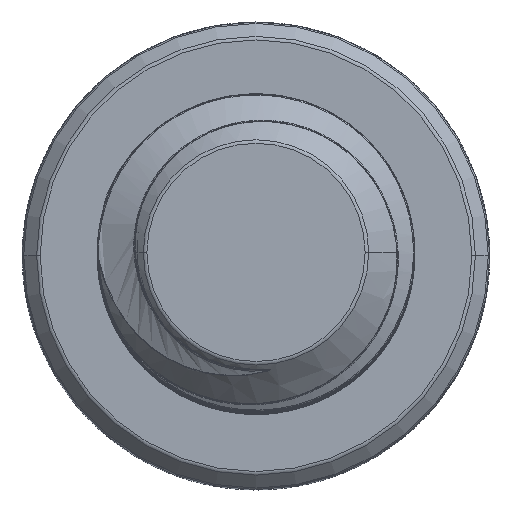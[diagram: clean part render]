
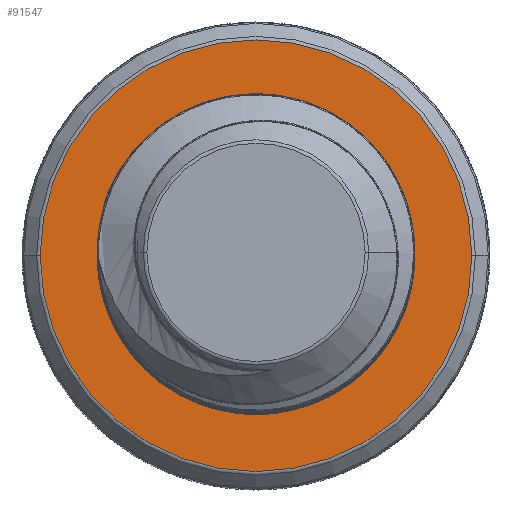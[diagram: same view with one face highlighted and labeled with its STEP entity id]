
A CAD part, top view. The second image highlights one B-rep face of the part: STEP entity #91547.
In plain terms, the highlighted planar face has unit normal (0, 0, 1).
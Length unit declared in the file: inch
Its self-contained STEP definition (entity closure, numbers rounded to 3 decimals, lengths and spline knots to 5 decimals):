
#1328 = CARTESIAN_POINT ( 'NONE',  ( 0.10528, 0.00814, -1.5 ) ) ;
#1633 = CARTESIAN_POINT ( 'NONE',  ( -0.16987, 0., -1.5 ) ) ;
#4963 = CARTESIAN_POINT ( 'NONE',  ( -0.01413, 0.12618, -1.5 ) ) ;
#5326 = VERTEX_POINT ( 'NONE', #160322 ) ;
#9999 = CARTESIAN_POINT ( 'NONE',  ( 0., 0., -1.5 ) ) ;
#10067 = CARTESIAN_POINT ( 'NONE',  ( 0.02707, -0.0929, -1.5 ) ) ;
#11729 = CARTESIAN_POINT ( 'NONE',  ( -0.11545, -0.02751, -1.5 ) ) ;
#22119 = FACE_OUTER_BOUND ( 'NONE', #99215, .T. ) ;
#23245 = CARTESIAN_POINT ( 'NONE',  ( -0.1112, -0.03765, -1.5 ) ) ;
#23430 = CARTESIAN_POINT ( 'NONE',  ( 0.16987, 0., -1.5 ) ) ;
#24350 = CARTESIAN_POINT ( 'NONE',  ( 0.01684, -0.09684, -1.5 ) ) ;
#26610 = CARTESIAN_POINT ( 'NONE',  ( 0.0877, -0.04382, -1.5 ) ) ;
#27684 = CARTESIAN_POINT ( 'NONE',  ( 0.08217, 0.08039, -1.5 ) ) ;
#34443 = ORIENTED_EDGE ( 'NONE', *, *, #64050, .T. ) ;
#34787 = CARTESIAN_POINT ( 'NONE',  ( 0.03651, -0.08716, -1.5 ) ) ;
#35326 = CARTESIAN_POINT ( 'NONE',  ( -0.11968, -0.01169, -1.5 ) ) ;
#36116 = CIRCLE ( 'NONE', #40603, 0.16987 ) ;
#36426 = CARTESIAN_POINT ( 'NONE',  ( -0.12066, 0.03729, -1.5 ) ) ;
#37798 = CARTESIAN_POINT ( 'NONE',  ( 0., 0., -1.5 ) ) ;
#38702 = CARTESIAN_POINT ( 'NONE',  ( 0.08109, -0.05269, -1.5 ) ) ;
#39265 = CARTESIAN_POINT ( 'NONE',  ( 0.09809, -0.02421, -1.5 ) ) ;
#39929 = ORIENTED_EDGE ( 'NONE', *, *, #64104, .T. ) ;
#40318 = CARTESIAN_POINT ( 'NONE',  ( -0.00301, 0.12627, -1.5 ) ) ;
#40603 = AXIS2_PLACEMENT_3D ( 'NONE', #136357, #62499, #150668 ) ;
#40852 = CARTESIAN_POINT ( 'NONE',  ( -0.01413, 0.12618, -1.5 ) ) ;
#48497 = CARTESIAN_POINT ( 'NONE',  ( -0.1176, 0.04787, -1.5 ) ) ;
#49055 = CARTESIAN_POINT ( 'NONE',  ( -0.00482, -0.10051, -1.5 ) ) ;
#49789 = DIRECTION ( 'NONE',  ( 0., 0., -1. ) ) ;
#50418 = VERTEX_POINT ( 'NONE', #1633 ) ;
#50803 = CARTESIAN_POINT ( 'NONE',  ( 0.0394, 0.11463, -1.5 ) ) ;
#52683 = VERTEX_POINT ( 'NONE', #23430 ) ;
#60368 = DIRECTION ( 'NONE',  ( 0., 0., -1. ) ) ;
#60783 = EDGE_LOOP ( 'NONE', ( #156963, #112574, #87210, #39929 ) ) ;
#61724 = CARTESIAN_POINT ( 'NONE',  ( -0.12211, 0.00458, -1.5 ) ) ;
#62499 = DIRECTION ( 'NONE',  ( 0., 0., 1. ) ) ;
#63447 = CARTESIAN_POINT ( 'NONE',  ( 0., 0., -1.5 ) ) ;
#64006 = CARTESIAN_POINT ( 'NONE',  ( 0.02924, 0.11893, -1.5 ) ) ;
#64050 = EDGE_CURVE ( 'NONE', #52683, #50418, #103689, .T. ) ;
#64104 = EDGE_CURVE ( 'NONE', #163102, #92521, #145972, .T. ) ;
#72226 = CARTESIAN_POINT ( 'NONE',  ( -0.04812, -0.09541, -1.5 ) ) ;
#73308 = CARTESIAN_POINT ( 'NONE',  ( -0.12074, -0.00626, -1.5 ) ) ;
#73876 = CARTESIAN_POINT ( 'NONE',  ( -0.02126, -0.10054, -1.5 ) ) ;
#74234 = CIRCLE ( 'NONE', #111231, 0.09449 ) ;
#74357 = PLANE ( 'NONE',  #104483 ) ;
#76167 = CARTESIAN_POINT ( 'NONE',  ( 0.04438, 0.11209, -1.5 ) ) ;
#77349 = DIRECTION ( 'NONE',  ( -1., 0., 0. ) ) ;
#77778 = CARTESIAN_POINT ( 'NONE',  ( 0.05852, 0.10358, -1.5 ) ) ;
#80960 = EDGE_CURVE ( 'NONE', #92521, #135970, #74234, .T. ) ;
#86874 = AXIS2_PLACEMENT_3D ( 'NONE', #63447, #115245, #126847 ) ;
#87016 = DIRECTION ( 'NONE',  ( 0., 0., -1. ) ) ;
#87210 = ORIENTED_EDGE ( 'NONE', *, *, #100149, .T. ) ;
#88792 = CARTESIAN_POINT ( 'NONE',  ( 0.10191, 0.0411, -1.5 ) ) ;
#89344 = CARTESIAN_POINT ( 'NONE',  ( 0.10534, 0.01916, -1.5 ) ) ;
#91053 = FACE_BOUND ( 'NONE', #60783, .T. ) ;
#91547 = ADVANCED_FACE ( 'NONE', ( #22119, #91053 ), #74357, .F. ) ;
#92521 = VERTEX_POINT ( 'NONE', #156663 ) ;
#96539 = CARTESIAN_POINT ( 'NONE',  ( 0.03651, -0.08716, -1.5 ) ) ;
#97568 = CARTESIAN_POINT ( 'NONE',  ( -0.0933, -0.06513, -1.5 ) ) ;
#98127 = CARTESIAN_POINT ( 'NONE',  ( -0.10005, -0.05654, -1.5 ) ) ;
#98585 = DIRECTION ( 'NONE',  ( -1., 0., 0. ) ) ;
#99215 = EDGE_LOOP ( 'NONE', ( #112400, #34443 ) ) ;
#100149 = EDGE_CURVE ( 'NONE', #5326, #163102, #110947, .T. ) ;
#102026 = CARTESIAN_POINT ( 'NONE',  ( 0.0671, 0.09663, -1.5 ) ) ;
#102567 = CARTESIAN_POINT ( 'NONE',  ( 0.09845, 0.05152, -1.5 ) ) ;
#103095 = CARTESIAN_POINT ( 'NONE',  ( 0.02405, 0.12071, -1.5 ) ) ;
#103689 = CIRCLE ( 'NONE', #86874, 0.16987 ) ;
#104483 = AXIS2_PLACEMENT_3D ( 'NONE', #9999, #87016, #98585 ) ;
#110050 = AXIS2_PLACEMENT_3D ( 'NONE', #113140, #49789, #77349 ) ;
#110753 = CARTESIAN_POINT ( 'NONE',  ( -0.01574, -0.10081, -1.5 ) ) ;
#110947 = CIRCLE ( 'NONE', #110050, 0.12697 ) ;
#111231 = AXIS2_PLACEMENT_3D ( 'NONE', #37798, #60368, #148512 ) ;
#111874 = CARTESIAN_POINT ( 'NONE',  ( 0.00062, -0.09996, -1.5 ) ) ;
#112400 = ORIENTED_EDGE ( 'NONE', *, *, #134699, .T. ) ;
#112574 = ORIENTED_EDGE ( 'NONE', *, *, #150526, .T. ) ;
#113140 = CARTESIAN_POINT ( 'NONE',  ( 0., 0., -1.5 ) ) ;
#114157 = CARTESIAN_POINT ( 'NONE',  ( 0.10164, -0.01371, -1.5 ) ) ;
#115245 = DIRECTION ( 'NONE',  ( 0., 0., 1. ) ) ;
#123996 = CARTESIAN_POINT ( 'NONE',  ( -0.06806, -0.08611, -1.5 ) ) ;
#126292 = B_SPLINE_CURVE_WITH_KNOTS ( 'NONE', 3,
 ( #34787, #10067, #24350, #111874, #49055, #110753, #73876, #137248, #72226, #123996, #148235, #97568, #98127, #23245, #11729, #35326, #73308, #61724, #161443, #149897, #36426, #48497 ),
 .UNSPECIFIED., .F., .F.,
 ( 4, 2, 2, 2, 2, 2, 2, 2, 2, 2, 4 ),
 ( 0., 0.00083, 0.00125, 0.00166, 0.00249, 0.00332, 0.00415, 0.00498, 0.0054, 0.00581, 0.00664 ),
 .UNSPECIFIED. ) ;
#126847 = DIRECTION ( 'NONE',  ( -1., 0., 0. ) ) ;
#134699 = EDGE_CURVE ( 'NONE', #50418, #52683, #36116, .T. ) ;
#135970 = VERTEX_POINT ( 'NONE', #96539 ) ;
#136357 = CARTESIAN_POINT ( 'NONE',  ( 0., 0., -1.5 ) ) ;
#137248 = CARTESIAN_POINT ( 'NONE',  ( -0.03759, -0.09845, -1.5 ) ) ;
#138959 = CARTESIAN_POINT ( 'NONE',  ( 0.08845, 0.07136, -1.5 ) ) ;
#140040 = CARTESIAN_POINT ( 'NONE',  ( 0.07284, -0.06019, -1.5 ) ) ;
#145972 = B_SPLINE_CURVE_WITH_KNOTS ( 'NONE', 3,
 ( #40852, #40318, #151620, #103095, #64006, #50803, #76167, #77778, #102026, #27684, #138959, #102567, #88792, #89344, #1328, #114157, #39265, #26610, #38702, #140040 ),
 .UNSPECIFIED., .F., .F.,
 ( 4, 2, 2, 2, 2, 2, 2, 2, 2, 4 ),
 ( -0.00049, 0.00035, 0.00077, 0.00118, 0.00202, 0.00286, 0.00369, 0.00453, 0.00537, 0.0062 ),
 .UNSPECIFIED. ) ;
#148235 = CARTESIAN_POINT ( 'NONE',  ( -0.0771, -0.08005, -1.5 ) ) ;
#148512 = DIRECTION ( 'NONE',  ( -1., 0., 0. ) ) ;
#149897 = CARTESIAN_POINT ( 'NONE',  ( -0.12226, 0.0263, -1.5 ) ) ;
#150526 = EDGE_CURVE ( 'NONE', #135970, #5326, #126292, .T. ) ;
#150668 = DIRECTION ( 'NONE',  ( -1., 0., 0. ) ) ;
#151620 = CARTESIAN_POINT ( 'NONE',  ( 0.00813, 0.12495, -1.5 ) ) ;
#156663 = CARTESIAN_POINT ( 'NONE',  ( 0.07284, -0.06019, -1.5 ) ) ;
#156963 = ORIENTED_EDGE ( 'NONE', *, *, #80960, .T. ) ;
#160322 = CARTESIAN_POINT ( 'NONE',  ( -0.1176, 0.04787, -1.5 ) ) ;
#161443 = CARTESIAN_POINT ( 'NONE',  ( -0.12242, 0.01001, -1.5 ) ) ;
#163102 = VERTEX_POINT ( 'NONE', #4963 ) ;
